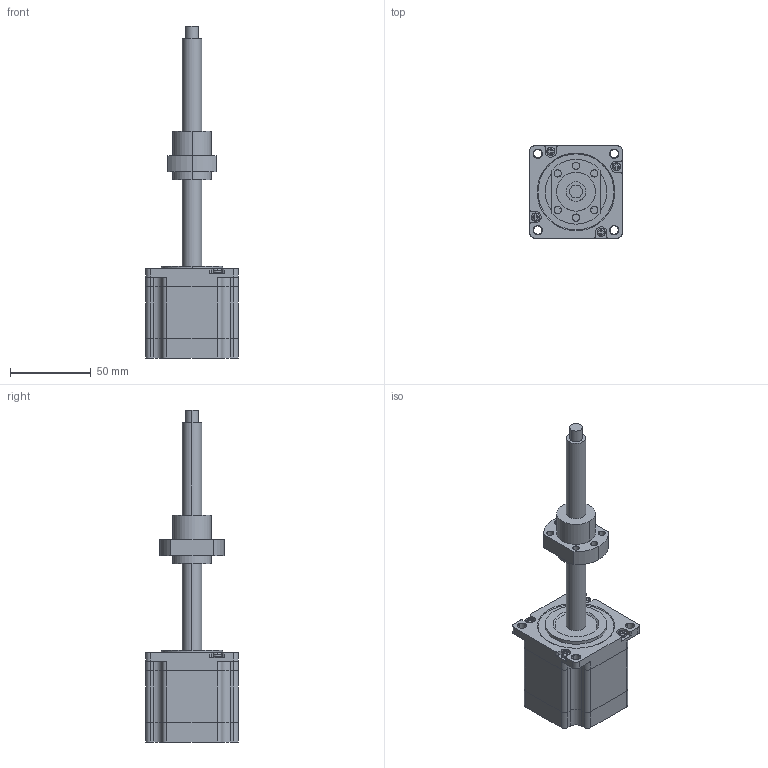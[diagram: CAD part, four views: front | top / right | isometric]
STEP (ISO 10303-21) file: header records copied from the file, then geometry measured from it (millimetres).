
FILE_DESCRIPTION (( 'STEP AP203' ), '1' );
FILE_NAME ('57SE1855-430-BS1205-100-01.STEP', '2022-06-27T12:18:08', ( 'USER-' ), ( 'MS' ), 'SwSTEP 2.0', 'SolidWorks 2018', '' );
FILE_SCHEMA (( 'CONFIG_CONTROL_DESIGN' ));
Length unit declared in the file: millimetre
Products named in the file (3): 57SE1855-430-BS1205-100-01; 1845; 蹟譫
Assembly tree (2 placements, depth 2):
  57SE1855-430-BS1205-100-01
    1845
    蹟譫
Bounding box: 57 x 57 x 205 mm (x, y, z)
Volume: 190915.3 mm3; surface area: 42366.4 mm2
Topology: 8 solids, 8 shells, 274 faces, 737 edges, 486 vertices
Faces by surface type: plane 141, cylinder 97, cone 20, torus 16
Entity records: 9928 total; most frequent: CARTESIAN_POINT 2654, ORIENTED_EDGE 1474, DIRECTION 1449, EDGE_CURVE 737, AXIS2_PLACEMENT_3D 521, VERTEX_POINT 486, VECTOR 407, LINE 407
